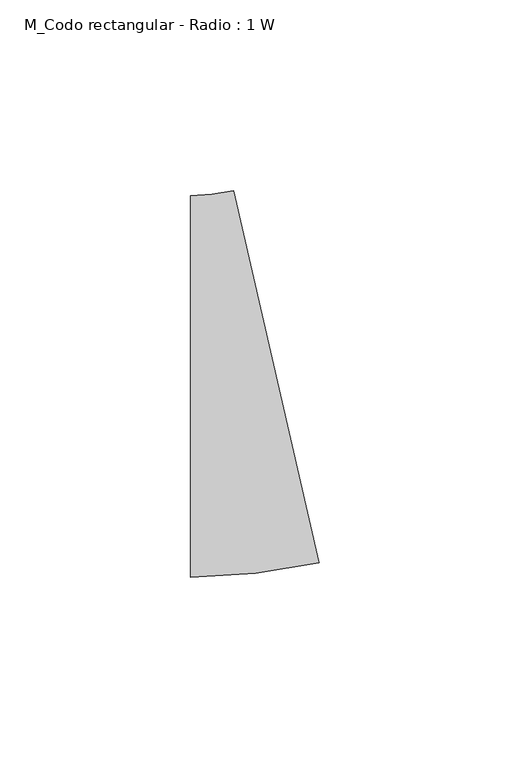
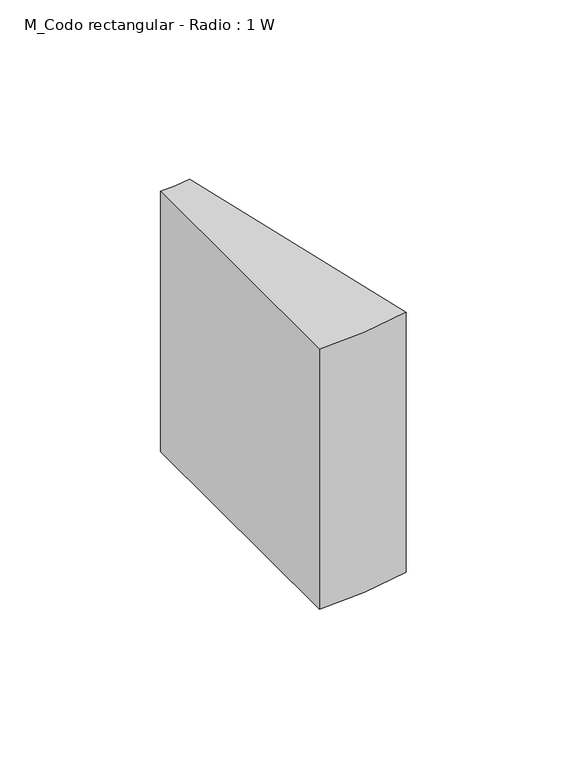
"""IFC4 building model written with IfcOpenShell, lengths in millimetres: duct fitting geometry, M_Codo rectangular - Radio : 1 W."""

import ifcopenshell
import ifcopenshell.guid

model = None  # the IFC model being written
_history = None  # IfcOwnerHistory: only IFC2X3 demands one
_inside = {}  # id of a spatial element -> (the spatial element, [elements in it])
_under = {}  # id of a project, library or spatial element -> (it, [spatial elements below it])
_declared = {}  # id of a project -> (the project, [libraries it declares])
_typed = {}  # id of a type object -> (the type object, [elements of that type])
_made_of = {}  # id of a material, layer set ... -> (it, [elements and type objects made of it])


def new_model(schema):
    """Start an empty IFC model of exactly this schema.

    Asked for "IFC4X3", IfcOpenShell would pick the latest addendum, in which some entities
    have other attributes; the version numbers below select the first issue.
    IFC2X3 requires an IfcOwnerHistory on every rooted entity: one is made here for all.
    """
    global model, _history
    if schema == "IFC4X3":
        model = ifcopenshell.file(schema_version=(4, 3, 0, 0))
    else:
        model = ifcopenshell.file(schema=schema)
    _inside.clear()
    _under.clear()
    _declared.clear()
    _typed.clear()
    _made_of.clear()
    _history = None
    if model.schema == "IFC2X3":
        org = make("IfcOrganization", Name="unknown")
        user = make(
            "IfcPersonAndOrganization",
            ThePerson=make("IfcPerson", FamilyName="unknown"),
            TheOrganization=org,
        )
        app = make(
            "IfcApplication",
            ApplicationDeveloper=org,
            Version="unknown",
            ApplicationFullName="unknown",
            ApplicationIdentifier="unknown",
        )
        _history = make(
            "IfcOwnerHistory",
            OwningUser=user,
            OwningApplication=app,
            ChangeAction="ADDED",
            CreationDate=0,
        )
    return model


def make(cls, **values):
    """One entity of the class cls with the attributes given. An attribute that is None is left unset."""
    return model.create_entity(
        cls, **{name: value for name, value in values.items() if value is not None}
    )


def rooted(cls, **values):
    """An entity with a GlobalId (a new one), such as an element, a storey or a relation."""
    return make(cls, GlobalId=ifcopenshell.guid.new(), OwnerHistory=_history, **values)


def si_unit(unit_type, name, prefix=None):
    """IfcSIUnit, for example si_unit("LENGTHUNIT", "METRE", prefix="MILLI")."""
    return make("IfcSIUnit", UnitType=unit_type, Prefix=prefix, Name=name)


def assignment(units):
    """IfcUnitAssignment: the units of a project."""
    return None if units is None else make("IfcUnitAssignment", Units=units)


def point(xyz):
    """IfcCartesianPoint."""
    return None if xyz is None else make("IfcCartesianPoint", Coordinates=xyz)


def direction(xyz):
    """IfcDirection."""
    return None if xyz is None else make("IfcDirection", DirectionRatios=xyz)


def frame(location, z_axis=None, x_axis=None):
    """IfcAxis2Placement3D, a coordinate frame: its origin and axes. An axis left out is left unset."""
    return make(
        "IfcAxis2Placement3D",
        Location=point(location),
        Axis=direction(z_axis),
        RefDirection=direction(x_axis),
    )


def frame_2d(location, x_axis=None):
    """IfcAxis2Placement2D, a coordinate frame in the plane: its origin and x axis."""
    return make(
        "IfcAxis2Placement2D", Location=point(location), RefDirection=direction(x_axis)
    )


def origin():
    """The frame at (0, 0, 0) with its axes left unset."""
    return frame((0.0, 0.0, 0.0))


def place(relative_to, where):
    """IfcLocalPlacement: puts the frame where relative to a parent placement (None: the world)."""
    return make(
        "IfcLocalPlacement", PlacementRelTo=relative_to, RelativePlacement=where
    )


def context(
    kind, dimensions, precision=None, world=None, true_north=None, identifier=None
):
    """IfcGeometricRepresentationContext, for example the 3D "Model" context."""
    return make(
        "IfcGeometricRepresentationContext",
        ContextIdentifier=identifier,
        ContextType=kind,
        CoordinateSpaceDimension=dimensions,
        Precision=precision,
        WorldCoordinateSystem=world,
        TrueNorth=true_north,
    )


def project(units=None, contexts=None):
    """IfcProject with its units and contexts."""
    return rooted(
        "IfcProject",
        Name="project",
        RepresentationContexts=contexts,
        UnitsInContext=assignment(units),
    )


def spatial(cls, under=None, at=None, **own):
    """A site, building, storey or space (cls), placed at a placement, below another one or the project."""
    s = rooted(cls, ObjectPlacement=at, **own)
    if under is not None:
        _under.setdefault(under.id(), (under, []))[1].append(s)
    return s


def polyline(points):
    """IfcPolyline through the points."""
    return make("IfcPolyline", Points=[point(p) for p in points])


def circle_curve(where, radius):
    """IfcCircle in the frame where."""
    return make("IfcCircle", Position=where, Radius=radius)


def trimmed(basis, trim1, trim2, sense, master):
    """IfcTrimmedCurve: the piece of a basis curve between two trims."""
    return make(
        "IfcTrimmedCurve",
        BasisCurve=basis,
        Trim1=trim1,
        Trim2=trim2,
        SenseAgreement=sense,
        MasterRepresentation=master,
    )


def segment(curve, same_sense, transition):
    """IfcCompositeCurveSegment."""
    return make(
        "IfcCompositeCurveSegment",
        Transition=transition,
        SameSense=same_sense,
        ParentCurve=curve,
    )


def composite_curve(segments, self_intersect=None):
    """IfcCompositeCurve: segments joined end to end."""
    return make("IfcCompositeCurve", Segments=segments, SelfIntersect=self_intersect)


def outline(outer, holes=None, kind="AREA"):
    """IfcArbitraryClosedProfileDef: a profile drawn as a closed curve; with holes, ...WithVoids."""
    if holes is None:
        return make("IfcArbitraryClosedProfileDef", ProfileType=kind, OuterCurve=outer)
    return make(
        "IfcArbitraryProfileDefWithVoids",
        ProfileType=kind,
        OuterCurve=outer,
        InnerCurves=holes,
    )


def extrude(swept, where, along, depth):
    """IfcExtrudedAreaSolid: the profile swept, set in the frame where, extruded along a direction by depth."""
    return make(
        "IfcExtrudedAreaSolid",
        SweptArea=swept,
        Position=where,
        ExtrudedDirection=direction(along),
        Depth=depth,
    )


def shape(context_of_items, identifier, shape_type, items):
    """IfcShapeRepresentation: the items that make up one representation, for example the "Body"."""
    return make(
        "IfcShapeRepresentation",
        ContextOfItems=context_of_items,
        RepresentationIdentifier=identifier,
        RepresentationType=shape_type,
        Items=items,
    )


def source(mapping_origin, context_of_items, identifier, shape_type, items):
    """IfcRepresentationMap: a shape defined once, which mapped items show again and again."""
    return make(
        "IfcRepresentationMap",
        MappingOrigin=mapping_origin,
        MappedRepresentation=shape(context_of_items, identifier, shape_type, items),
    )


def transform(
    local_origin,
    x_axis=None,
    y_axis=None,
    z_axis=None,
    scale=None,
    scale2=None,
    scale3=None,
    uniform=True,
):
    """IfcCartesianTransformationOperator3D, or its non-uniform kind. x_axis, y_axis, z_axis: its Axis1, 2, 3."""
    if uniform:
        return make(
            "IfcCartesianTransformationOperator3D",
            Axis1=direction(x_axis),
            Axis2=direction(y_axis),
            LocalOrigin=point(local_origin),
            Scale=scale,
            Axis3=direction(z_axis),
        )
    return make(
        "IfcCartesianTransformationOperator3DnonUniform",
        Axis1=direction(x_axis),
        Axis2=direction(y_axis),
        LocalOrigin=point(local_origin),
        Scale=scale,
        Axis3=direction(z_axis),
        Scale2=scale2,
        Scale3=scale3,
    )


def mapped(mapping_source, mapping_target):
    """IfcMappedItem: shows the shape of a source again, moved by a transform."""
    return make(
        "IfcMappedItem", MappingSource=mapping_source, MappingTarget=mapping_target
    )


def made_of(thing, what):
    """Note that an element or type object is made of a material, layer set ...; save() writes the relation."""
    if what is not None:
        _made_of.setdefault(what.id(), (what, []))[1].append(thing)
    return thing


def element(
    cls,
    number,
    at=None,
    inside=None,
    cuts=None,
    type_object=None,
    material=None,
    context=None,
    identifier="Body",
    shape_type=None,
    held_by="IfcProductDefinitionShape",
    body=None,
    shapes=None,
    **own,
):
    """One element of the class cls, such as IfcWall. Its Tag is "e" and its number.

    at: its placement. inside: the storey or other place that contains it. cuts: it is an
    opening in that element (IfcRelVoidsElement). A single representation is given by context,
    identifier, shape_type and body (its items); several are given by shapes. held_by: the class
    of the entity that holds the representations. save() writes the other relations.
    """
    e = rooted(cls, Tag="e%d" % number, ObjectPlacement=at, **own)
    if body is not None:
        shapes = [shape(context, identifier, shape_type, body)]
    if shapes is not None:
        e.Representation = make(held_by, Representations=shapes)
    if inside is not None:
        _inside.setdefault(inside.id(), (inside, []))[1].append(e)
    if cuts is not None:
        rooted(
            "IfcRelVoidsElement", RelatingBuildingElement=cuts, RelatedOpeningElement=e
        )
    if type_object is not None:
        _typed.setdefault(type_object.id(), (type_object, []))[1].append(e)
    return made_of(e, material)


def aggregate(whole, parts):
    """IfcRelAggregates: a whole, such as a stair, and the parts it consists of."""
    return rooted("IfcRelAggregates", RelatingObject=whole, RelatedObjects=parts)


def save(model, path):
    """Write the relations noted so far, then the file.

    IfcRelAggregates (storeys below a building ...), IfcRelContainedInSpatialStructure (elements
    in a storey), IfcRelDefinesByType, IfcRelAssociatesMaterial and IfcRelDeclares: one each for
    every whole, place, type object, material and project.
    """
    for whole, parts in _under.values():
        aggregate(whole, parts)
    for where, things in _inside.values():
        rooted(
            "IfcRelContainedInSpatialStructure",
            RelatedElements=things,
            RelatingStructure=where,
        )
    for kind, things in _typed.values():
        rooted("IfcRelDefinesByType", RelatedObjects=things, RelatingType=kind)
    for what, things in _made_of.values():
        rooted("IfcRelAssociatesMaterial", RelatedObjects=things, RelatingMaterial=what)
    for by, libraries in _declared.values():
        rooted("IfcRelDeclares", RelatingContext=by, RelatedDefinitions=libraries)
    model.write(path)


def m_codo_rectangular_radio_1_w_1028d2fe(model_context):
    return source(origin(), model_context, "Body", "SweptSolid", [
        extrude(outline(composite_curve([segment(trimmed(circle_curve(frame_2d((-11.3935608, 100.0)), 150.0), [point((22.3490973, -46.1555097))], [point((-11.3935608, -50.0))], False, "CARTESIAN"), True, "CONTINUOUS"), segment(polyline([(-11.3935608, -50.0), (-11.3935608, 50.0)]), True, "CONTINUOUS"), segment(trimmed(circle_curve(frame_2d((-11.3935608, 100.0)), 50.0), [point((-11.3935608, 50.0))], [point((-0.1460081, 51.2814968))], True, "CARTESIAN"), True, "CONTINUOUS"), segment(polyline([(-0.1460081, 51.2814968), (22.3490973, -46.1555097)]), True, "CONTINUOUS")], self_intersect=False)), frame((0.0, 0.0, -50.0), z_axis=(0.0, 0.0, 1.0), x_axis=(1.0, 0.0, 0.0)), (0.0, 0.0, 1.0), 100.0),
    ])


if __name__ == "__main__":
    model = new_model("IFC4")
    model_context = context("Model", 3, world=origin())
    ifc_project = project(units=[si_unit("LENGTHUNIT", "METRE", prefix="MILLI")], contexts=[model_context])
    site = spatial("IfcSite", under=ifc_project)
    building = spatial("IfcBuilding", under=site)
    placement = place(None, origin())
    m_codo_rectangular_radio_1_w_shape = m_codo_rectangular_radio_1_w_1028d2fe(model_context)
    element("IfcDuctFitting", 1, ObjectType="M_Codo rectangular - Radio : 1 W", at=placement, inside=building, context=model_context, shape_type="MappedRepresentation", body=[
        mapped(m_codo_rectangular_radio_1_w_shape, transform((0.0, 0.0, 0.0), x_axis=(1.0, 0.0, 0.0), y_axis=(0.0, 1.0, 0.0), z_axis=(0.0, 0.0, 1.0))),
    ])
    save(model, "model.ifc")
